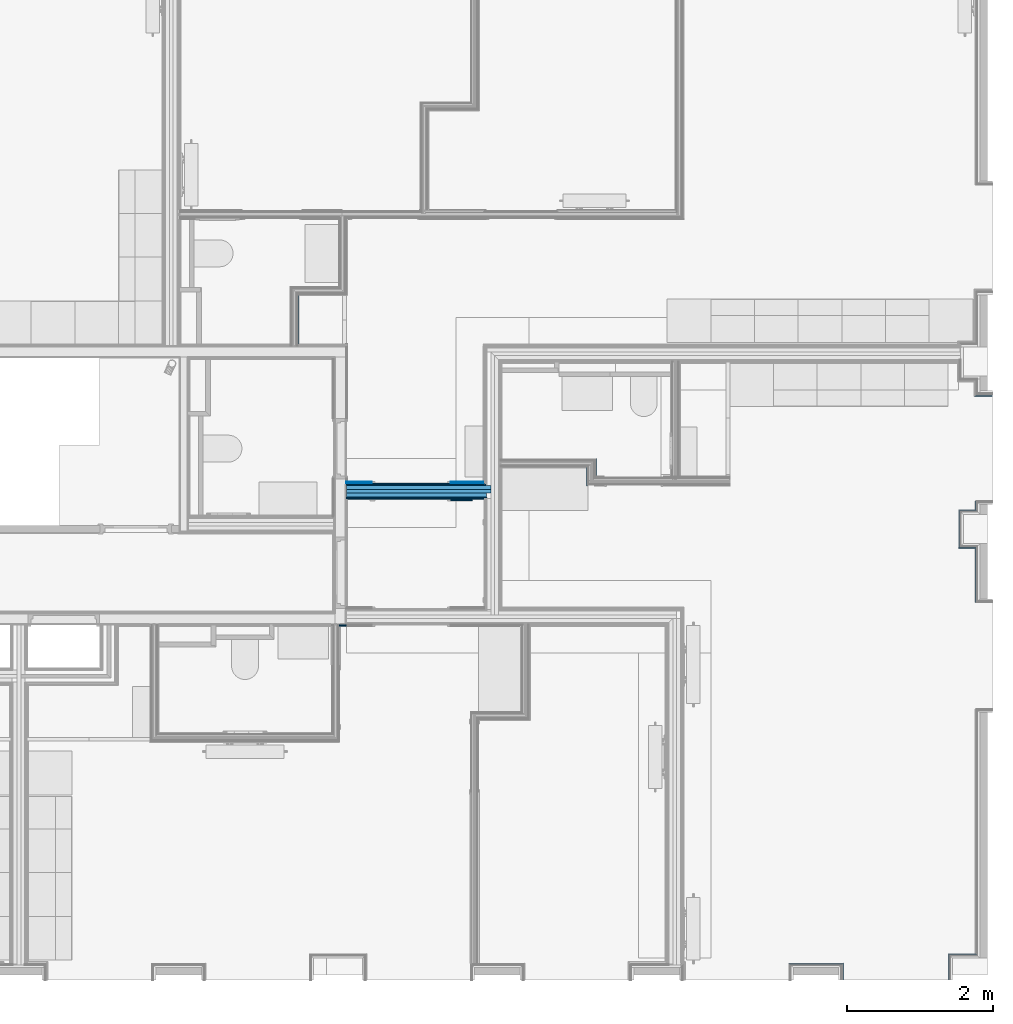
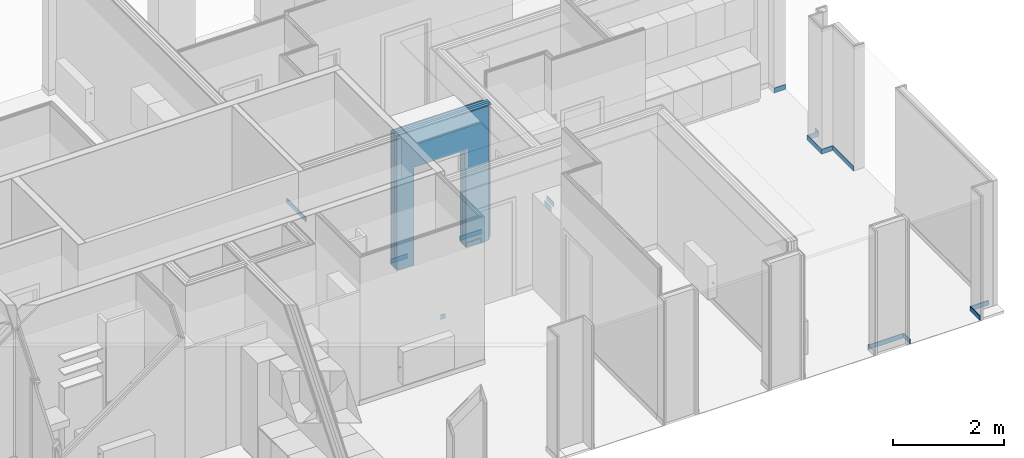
# One storey, part 37 of 64: 23 building element parts, 1 opening, 14 elements without a shape of their own.
"""IFC2X3 building model written with IfcOpenShell, lengths in metres."""

import ifcopenshell
import ifcopenshell.guid

model = None  # the IFC model being written
_history = None  # IfcOwnerHistory: only IFC2X3 demands one
_inside = {}  # id of a spatial element -> (the spatial element, [elements in it])
_under = {}  # id of a project, library or spatial element -> (it, [spatial elements below it])
_declared = {}  # id of a project -> (the project, [libraries it declares])
_typed = {}  # id of a type object -> (the type object, [elements of that type])
_made_of = {}  # id of a material, layer set ... -> (it, [elements and type objects made of it])


def new_model(schema):
    """Start an empty IFC model of exactly this schema.

    Asked for "IFC4X3", IfcOpenShell would pick the latest addendum, in which some entities
    have other attributes; the version numbers below select the first issue.
    IFC2X3 requires an IfcOwnerHistory on every rooted entity: one is made here for all.
    """
    global model, _history
    if schema == "IFC4X3":
        model = ifcopenshell.file(schema_version=(4, 3, 0, 0))
    else:
        model = ifcopenshell.file(schema=schema)
    _inside.clear()
    _under.clear()
    _declared.clear()
    _typed.clear()
    _made_of.clear()
    _history = None
    if model.schema == "IFC2X3":
        org = make("IfcOrganization", Name="unknown")
        user = make(
            "IfcPersonAndOrganization",
            ThePerson=make("IfcPerson", FamilyName="unknown"),
            TheOrganization=org,
        )
        app = make(
            "IfcApplication",
            ApplicationDeveloper=org,
            Version="unknown",
            ApplicationFullName="unknown",
            ApplicationIdentifier="unknown",
        )
        _history = make(
            "IfcOwnerHistory",
            OwningUser=user,
            OwningApplication=app,
            ChangeAction="ADDED",
            CreationDate=0,
        )
    return model


def make(cls, **values):
    """One entity of the class cls with the attributes given. An attribute that is None is left unset."""
    return model.create_entity(
        cls, **{name: value for name, value in values.items() if value is not None}
    )


def entity(cls, *values):
    """Any entity or typed value of the class cls, its attributes in the order of the schema. None: left unset."""
    e = model.create_entity(cls)
    for i, value in enumerate(values):
        if value is not None:
            e[i] = value
    return e


def rooted(cls, **values):
    """An entity with a GlobalId (a new one), such as an element, a storey or a relation."""
    return make(cls, GlobalId=ifcopenshell.guid.new(), OwnerHistory=_history, **values)


def si_unit(unit_type, name, prefix=None):
    """IfcSIUnit, for example si_unit("LENGTHUNIT", "METRE", prefix="MILLI")."""
    return make("IfcSIUnit", UnitType=unit_type, Prefix=prefix, Name=name)


def converted_unit(unit_type, name, factor, base, dimensions=None, offset=None):
    """IfcConversionBasedUnit, such as the inch: factor (a typed value) times the base unit."""
    return make(
        "IfcConversionBasedUnit"
        if offset is None
        else "IfcConversionBasedUnitWithOffset",
        ConversionOffset=offset,
        Dimensions=None
        if dimensions is None
        else entity("IfcDimensionalExponents", *dimensions),
        UnitType=unit_type,
        Name=name,
        ConversionFactor=make(
            "IfcMeasureWithUnit", ValueComponent=factor, UnitComponent=base
        ),
    )


def derived_unit(unit_type, elements):
    """IfcDerivedUnit: a product of units, each with its exponent."""
    return make(
        "IfcDerivedUnit",
        Elements=[
            make("IfcDerivedUnitElement", Unit=unit, Exponent=power)
            for unit, power in elements
        ],
        UnitType=unit_type,
    )


def money_unit(currency):
    """IfcMonetaryUnit."""
    return make("IfcMonetaryUnit", Currency=currency)


def assignment(units):
    """IfcUnitAssignment: the units of a project."""
    return None if units is None else make("IfcUnitAssignment", Units=units)


def point(xyz):
    """IfcCartesianPoint."""
    return None if xyz is None else make("IfcCartesianPoint", Coordinates=xyz)


def direction(xyz):
    """IfcDirection."""
    return None if xyz is None else make("IfcDirection", DirectionRatios=xyz)


def frame(location, z_axis=None, x_axis=None):
    """IfcAxis2Placement3D, a coordinate frame: its origin and axes. An axis left out is left unset."""
    return make(
        "IfcAxis2Placement3D",
        Location=point(location),
        Axis=direction(z_axis),
        RefDirection=direction(x_axis),
    )


def frame_2d(location, x_axis=None):
    """IfcAxis2Placement2D, a coordinate frame in the plane: its origin and x axis."""
    return make(
        "IfcAxis2Placement2D", Location=point(location), RefDirection=direction(x_axis)
    )


def origin_with_axes():
    """The frame at (0, 0, 0) with the z axis (0, 0, 1) and the x axis (1, 0, 0) written out."""
    return frame((0.0, 0.0, 0.0), z_axis=(0.0, 0.0, 1.0), x_axis=(1.0, 0.0, 0.0))


def place(relative_to, where):
    """IfcLocalPlacement: puts the frame where relative to a parent placement (None: the world)."""
    return make(
        "IfcLocalPlacement", PlacementRelTo=relative_to, RelativePlacement=where
    )


def context(
    kind, dimensions, precision=None, world=None, true_north=None, identifier=None
):
    """IfcGeometricRepresentationContext, for example the 3D "Model" context."""
    return make(
        "IfcGeometricRepresentationContext",
        ContextIdentifier=identifier,
        ContextType=kind,
        CoordinateSpaceDimension=dimensions,
        Precision=precision,
        WorldCoordinateSystem=world,
        TrueNorth=true_north,
    )


def subcontext(parent, identifier, kind, view, scale=None):
    """IfcGeometricRepresentationSubContext, for example "Body" below "Model"."""
    return make(
        "IfcGeometricRepresentationSubContext",
        ContextIdentifier=identifier,
        ContextType=kind,
        ParentContext=parent,
        TargetScale=scale,
        TargetView=view,
    )


def project(units=None, contexts=None):
    """IfcProject with its units and contexts."""
    return rooted(
        "IfcProject",
        Name="project",
        RepresentationContexts=contexts,
        UnitsInContext=assignment(units),
    )


def spatial(cls, under=None, at=None, **own):
    """A site, building, storey or space (cls), placed at a placement, below another one or the project."""
    s = rooted(cls, ObjectPlacement=at, **own)
    if under is not None:
        _under.setdefault(under.id(), (under, []))[1].append(s)
    return s


def polyline(points):
    """IfcPolyline through the points."""
    return make("IfcPolyline", Points=[point(p) for p in points])


def profile(cls, at=None, kind="AREA", **sizes):
    """A parametric profile (cls). Its sizes go by their IFC names, for example OverallWidth=200.0."""
    return make(cls, ProfileType=kind, Position=at, **sizes)


def rectangle(**sizes):
    """IfcRectangleProfileDef."""
    return profile("IfcRectangleProfileDef", **sizes)


def outline(outer, holes=None, kind="AREA"):
    """IfcArbitraryClosedProfileDef: a profile drawn as a closed curve; with holes, ...WithVoids."""
    if holes is None:
        return make("IfcArbitraryClosedProfileDef", ProfileType=kind, OuterCurve=outer)
    return make(
        "IfcArbitraryProfileDefWithVoids",
        ProfileType=kind,
        OuterCurve=outer,
        InnerCurves=holes,
    )


def extrude(swept, where, along, depth):
    """IfcExtrudedAreaSolid: the profile swept, set in the frame where, extruded along a direction by depth."""
    return make(
        "IfcExtrudedAreaSolid",
        SweptArea=swept,
        Position=where,
        ExtrudedDirection=direction(along),
        Depth=depth,
    )


def shape(context_of_items, identifier, shape_type, items):
    """IfcShapeRepresentation: the items that make up one representation, for example the "Body"."""
    return make(
        "IfcShapeRepresentation",
        ContextOfItems=context_of_items,
        RepresentationIdentifier=identifier,
        RepresentationType=shape_type,
        Items=items,
    )


def material(Name=None, Category=None):
    """IfcMaterial."""
    return make("IfcMaterial", Name=Name, Category=Category)


def made_of(thing, what):
    """Note that an element or type object is made of a material, layer set ...; save() writes the relation."""
    if what is not None:
        _made_of.setdefault(what.id(), (what, []))[1].append(thing)
    return thing


def type_object(cls, material=None, **own):
    """A type object (cls), such as IfcWallType, which elements share."""
    return made_of(rooted(cls, **own), material)


def element(
    cls,
    number,
    at=None,
    inside=None,
    cuts=None,
    type_object=None,
    material=None,
    context=None,
    identifier="Body",
    shape_type=None,
    held_by="IfcProductDefinitionShape",
    body=None,
    shapes=None,
    **own,
):
    """One element of the class cls, such as IfcWall. Its Tag is "e" and its number.

    at: its placement. inside: the storey or other place that contains it. cuts: it is an
    opening in that element (IfcRelVoidsElement). A single representation is given by context,
    identifier, shape_type and body (its items); several are given by shapes. held_by: the class
    of the entity that holds the representations. save() writes the other relations.
    """
    e = rooted(cls, Tag="e%d" % number, ObjectPlacement=at, **own)
    if body is not None:
        shapes = [shape(context, identifier, shape_type, body)]
    if shapes is not None:
        e.Representation = make(held_by, Representations=shapes)
    if inside is not None:
        _inside.setdefault(inside.id(), (inside, []))[1].append(e)
    if cuts is not None:
        rooted(
            "IfcRelVoidsElement", RelatingBuildingElement=cuts, RelatedOpeningElement=e
        )
    if type_object is not None:
        _typed.setdefault(type_object.id(), (type_object, []))[1].append(e)
    return made_of(e, material)


def aggregate(whole, parts):
    """IfcRelAggregates: a whole, such as a stair, and the parts it consists of."""
    return rooted("IfcRelAggregates", RelatingObject=whole, RelatedObjects=parts)


def save(model, path):
    """Write the relations noted so far, then the file.

    IfcRelAggregates (storeys below a building ...), IfcRelContainedInSpatialStructure (elements
    in a storey), IfcRelDefinesByType, IfcRelAssociatesMaterial and IfcRelDeclares: one each for
    every whole, place, type object, material and project.
    """
    for whole, parts in _under.values():
        aggregate(whole, parts)
    for where, things in _inside.values():
        rooted(
            "IfcRelContainedInSpatialStructure",
            RelatedElements=things,
            RelatingStructure=where,
        )
    for kind, things in _typed.values():
        rooted("IfcRelDefinesByType", RelatedObjects=things, RelatingType=kind)
    for what, things in _made_of.values():
        rooted("IfcRelAssociatesMaterial", RelatedObjects=things, RelatingMaterial=what)
    for by, libraries in _declared.values():
        rooted("IfcRelDeclares", RelatingContext=by, RelatedDefinitions=libraries)
    model.write(path)


model = new_model("IFC2X3")

# Units and contexts
model_context = context("Model", 3, precision=1e-05, world=origin_with_axes(), true_north=direction((0.0, 1.0)))
body_context = subcontext(model_context, "Body", "Model", "MODEL_VIEW", scale=1.0)
ifc_project = project(units=[si_unit("LENGTHUNIT", "METRE"), si_unit("AREAUNIT", "SQUARE_METRE"), si_unit("VOLUMEUNIT", "CUBIC_METRE"), si_unit("ABSORBEDDOSEUNIT", "GRAY"), si_unit("AMOUNTOFSUBSTANCEUNIT", "MOLE"), si_unit("DOSEEQUIVALENTUNIT", "SIEVERT"), si_unit("ELECTRICCAPACITANCEUNIT", "FARAD"), si_unit("ELECTRICCHARGEUNIT", "COULOMB"), si_unit("ELECTRICCONDUCTANCEUNIT", "SIEMENS"), si_unit("ELECTRICCURRENTUNIT", "AMPERE"), si_unit("ELECTRICRESISTANCEUNIT", "OHM"), si_unit("ELECTRICVOLTAGEUNIT", "VOLT"), si_unit("ENERGYUNIT", "JOULE"), si_unit("FORCEUNIT", "NEWTON"), si_unit("FREQUENCYUNIT", "HERTZ"), si_unit("ILLUMINANCEUNIT", "LUX"), si_unit("INDUCTANCEUNIT", "HENRY"), si_unit("LUMINOUSFLUXUNIT", "LUMEN"), si_unit("LUMINOUSINTENSITYUNIT", "CANDELA"), si_unit("MAGNETICFLUXDENSITYUNIT", "TESLA"), si_unit("MAGNETICFLUXUNIT", "WEBER"), si_unit("MASSUNIT", "GRAM"), converted_unit("PLANEANGLEUNIT", "degree", entity("IfcReal", 0.0174532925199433), si_unit("PLANEANGLEUNIT", "RADIAN"), dimensions=[0, 0, 0, 0, 0, 0, 0]), si_unit("POWERUNIT", "WATT"), si_unit("PRESSUREUNIT", "PASCAL"), si_unit("RADIOACTIVITYUNIT", "BECQUEREL"), si_unit("SOLIDANGLEUNIT", "STERADIAN"), si_unit("THERMODYNAMICTEMPERATUREUNIT", "KELVIN"), si_unit("TIMEUNIT", "SECOND"), derived_unit("ACCELERATIONUNIT", [(si_unit("LENGTHUNIT", "METRE"), 1), (si_unit("TIMEUNIT", "SECOND"), -2)]), derived_unit("ANGULARVELOCITYUNIT", [(converted_unit("PLANEANGLEUNIT", "degree", entity("IfcReal", 0.0174532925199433), si_unit("PLANEANGLEUNIT", "RADIAN"), dimensions=[0, 0, 0, 0, 0, 0, 0]), 1), (si_unit("TIMEUNIT", "SECOND"), -1)]), derived_unit("CURVATUREUNIT", [(converted_unit("PLANEANGLEUNIT", "degree", entity("IfcReal", 0.0174532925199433), si_unit("PLANEANGLEUNIT", "RADIAN"), dimensions=[0, 0, 0, 0, 0, 0, 0]), 1), (si_unit("LENGTHUNIT", "METRE"), -1)]), derived_unit("DYNAMICVISCOSITYUNIT", [(si_unit("PRESSUREUNIT", "PASCAL"), 1), (si_unit("TIMEUNIT", "SECOND"), 1)]), derived_unit("HEATFLUXDENSITYUNIT", [(si_unit("POWERUNIT", "WATT"), 1), (si_unit("LENGTHUNIT", "METRE"), -2)]), derived_unit("HEATINGVALUEUNIT", [(si_unit("ENERGYUNIT", "JOULE"), 1), (si_unit("MASSUNIT", "GRAM"), -1)]), derived_unit("INTEGERCOUNTRATEUNIT", [(si_unit("TIMEUNIT", "SECOND"), -1)]), derived_unit("IONCONCENTRATIONUNIT", [(si_unit("MASSUNIT", "GRAM"), 1), (si_unit("VOLUMEUNIT", "CUBIC_METRE"), -1)]), derived_unit("ISOTHERMALMOISTURECAPACITYUNIT", [(si_unit("VOLUMEUNIT", "CUBIC_METRE"), 1), (si_unit("MASSUNIT", "GRAM"), -1)]), derived_unit("KINEMATICVISCOSITYUNIT", [(si_unit("AREAUNIT", "SQUARE_METRE"), 1), (si_unit("TIMEUNIT", "SECOND"), -1)]), derived_unit("LINEARFORCEUNIT", [(si_unit("FORCEUNIT", "NEWTON"), 1), (si_unit("LENGTHUNIT", "METRE"), -1)]), derived_unit("LINEARMOMENTUNIT", [(si_unit("FORCEUNIT", "NEWTON"), 1), (si_unit("LENGTHUNIT", "METRE"), -1)]), derived_unit("LINEARSTIFFNESSUNIT", [(si_unit("FORCEUNIT", "NEWTON"), 1), (si_unit("LENGTHUNIT", "METRE"), -1)]), derived_unit("LINEARVELOCITYUNIT", [(si_unit("LENGTHUNIT", "METRE"), 1), (si_unit("TIMEUNIT", "SECOND"), -1)]), derived_unit("LUMINOUSINTENSITYDISTRIBUTIONUNIT", [(si_unit("LUMINOUSINTENSITYUNIT", "CANDELA"), 1), (si_unit("LUMINOUSFLUXUNIT", "LUMEN"), -1)]), derived_unit("MASSDENSITYUNIT", [(si_unit("MASSUNIT", "GRAM"), 1), (si_unit("VOLUMEUNIT", "CUBIC_METRE"), -1)]), derived_unit("MASSFLOWRATEUNIT", [(si_unit("MASSUNIT", "GRAM"), 1), (si_unit("TIMEUNIT", "SECOND"), -1)]), derived_unit("MASSPERLENGTHUNIT", [(si_unit("MASSUNIT", "GRAM"), 1), (si_unit("LENGTHUNIT", "METRE"), -1)]), derived_unit("MODULUSOFELASTICITYUNIT", [(si_unit("FORCEUNIT", "NEWTON"), 1), (si_unit("AREAUNIT", "SQUARE_METRE"), -1)]), derived_unit("MODULUSOFLINEARSUBGRADEREACTIONUNIT", [(si_unit("FORCEUNIT", "NEWTON"), 1), (si_unit("LENGTHUNIT", "METRE"), -2)]), derived_unit("MODULUSOFROTATIONALSUBGRADEREACTIONUNIT", [(si_unit("FORCEUNIT", "NEWTON"), 1), (si_unit("LENGTHUNIT", "METRE"), 1)]), derived_unit("MODULUSOFSUBGRADEREACTIONUNIT", [(si_unit("FORCEUNIT", "NEWTON"), 1), (si_unit("VOLUMEUNIT", "CUBIC_METRE"), -1)]), derived_unit("MOISTUREDIFFUSIVITYUNIT", [(si_unit("VOLUMEUNIT", "CUBIC_METRE"), 1), (si_unit("TIMEUNIT", "SECOND"), -1)]), derived_unit("MOLECULARWEIGHTUNIT", [(si_unit("MASSUNIT", "GRAM"), 1), (si_unit("AMOUNTOFSUBSTANCEUNIT", "MOLE"), -1)]), derived_unit("PLANARFORCEUNIT", [(si_unit("FORCEUNIT", "NEWTON"), 1), (si_unit("LENGTHUNIT", "METRE"), -2)]), derived_unit("ROTATIONALFREQUENCYUNIT", [(si_unit("TIMEUNIT", "SECOND"), -1)]), derived_unit("ROTATIONALMASSUNIT", [(si_unit("MASSUNIT", "GRAM"), 1), (si_unit("LENGTHUNIT", "METRE"), 2)]), derived_unit("ROTATIONALSTIFFNESSUNIT", [(si_unit("FORCEUNIT", "NEWTON"), 1), (si_unit("LENGTHUNIT", "METRE"), 1), (converted_unit("PLANEANGLEUNIT", "degree", entity("IfcReal", 0.0174532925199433), si_unit("PLANEANGLEUNIT", "RADIAN"), dimensions=[0, 0, 0, 0, 0, 0, 0]), -1)]), derived_unit("SECTIONAREAINTEGRALUNIT", [(si_unit("LENGTHUNIT", "METRE"), 5)]), derived_unit("SECTIONMODULUSUNIT", [(si_unit("LENGTHUNIT", "METRE"), 3)]), derived_unit("SHEARMODULUSUNIT", [(si_unit("FORCEUNIT", "NEWTON"), 1), (si_unit("AREAUNIT", "SQUARE_METRE"), -1)]), derived_unit("SOUNDPOWERUNIT", [(si_unit("ENERGYUNIT", "JOULE"), 1), (si_unit("TIMEUNIT", "SECOND"), -1)]), derived_unit("SPECIFICHEATCAPACITYUNIT", [(si_unit("FORCEUNIT", "NEWTON"), 1), (si_unit("MASSUNIT", "GRAM"), -1), (si_unit("THERMODYNAMICTEMPERATUREUNIT", "KELVIN"), -1)]), derived_unit("TEMPERATUREGRADIENTUNIT", [(si_unit("THERMODYNAMICTEMPERATUREUNIT", "KELVIN"), 1), (si_unit("LENGTHUNIT", "METRE"), -1)]), derived_unit("THERMALADMITTANCEUNIT", [(si_unit("POWERUNIT", "WATT"), 1), (si_unit("AREAUNIT", "SQUARE_METRE"), -1), (si_unit("THERMODYNAMICTEMPERATUREUNIT", "KELVIN"), -1)]), derived_unit("THERMALCONDUCTANCEUNIT", [(si_unit("POWERUNIT", "WATT"), 1), (si_unit("LENGTHUNIT", "METRE"), -1), (si_unit("THERMODYNAMICTEMPERATUREUNIT", "KELVIN"), -1)]), derived_unit("THERMALEXPANSIONCOEFFICIENTUNIT", [(si_unit("THERMODYNAMICTEMPERATUREUNIT", "KELVIN"), -1)]), derived_unit("THERMALRESISTANCEUNIT", [(si_unit("AREAUNIT", "SQUARE_METRE"), 1), (si_unit("POWERUNIT", "WATT"), -1)]), derived_unit("THERMALTRANSMITTANCEUNIT", [(si_unit("POWERUNIT", "WATT"), 1), (si_unit("AREAUNIT", "SQUARE_METRE"), -1), (si_unit("THERMODYNAMICTEMPERATUREUNIT", "KELVIN"), -1)]), derived_unit("TORQUEUNIT", [(si_unit("FORCEUNIT", "NEWTON"), 1), (si_unit("LENGTHUNIT", "METRE"), 1)]), derived_unit("VAPORPERMEABILITYUNIT", [(si_unit("MASSUNIT", "GRAM"), 1), (si_unit("TIMEUNIT", "SECOND"), -1)]), derived_unit("VOLUMETRICFLOWRATEUNIT", [(si_unit("VOLUMEUNIT", "CUBIC_METRE"), 1), (si_unit("TIMEUNIT", "SECOND"), -1)]), derived_unit("WARPINGCONSTANTUNIT", [(si_unit("LENGTHUNIT", "METRE"), 6)]), derived_unit("WARPINGMOMENTUNIT", [(si_unit("FORCEUNIT", "NEWTON"), 1), (si_unit("LENGTHUNIT", "METRE"), 2)]), money_unit("GBP")], contexts=[model_context])

# Site, building, storey
site_placement = place(None, origin_with_axes())
site = spatial("IfcSite", under=ifc_project, at=site_placement, Name="Site", CompositionType="ELEMENT")
building_placement = place(site_placement, origin_with_axes())
building = spatial("IfcBuilding", under=site, at=building_placement, Name="Building01", CompositionType="ELEMENT")
storey_placement = place(building_placement, frame((0.0, 0.0, 8.64), z_axis=(0.0, 0.0, 1.0), x_axis=(1.0, 0.0, 0.0)))
storey = spatial("IfcBuildingStorey", under=building, at=storey_placement, Name="2F", CompositionType="ELEMENT", Elevation=8.64)

# Wall, building element part
wall_type_1 = type_object("IfcWallType", Name="SHE_A-Walls_Type06d_ExternalWallInsulation_48mm", PredefinedType="NOTDEFINED")
wall_1_placement = place(storey_placement, frame((24.143, 0.27, 0.0), z_axis=(0.0, 0.0, 1.0), x_axis=(1.0, 0.0, 0.0)))
wall_1 = element("IfcWall", 1, at=wall_1_placement, inside=storey, type_object=wall_type_1, Name="6D", ObjectType="SHE_A-Walls_Type06d_ExternalWallInsulation_48mm")
ifc_material_1 = material(Name="A_BSUK_Walls_Timber")
building_element_part_1_placement = place(wall_1_placement, origin_with_axes())
building_element_part_1 = element("IfcBuildingElementPart", 2, at=building_element_part_1_placement, material=ifc_material_1, Name="3", context=body_context, shape_type="SweptSolid", body=[
    extrude(outline(polyline([(0.687, 0.063), (-0.063, 0.063), (-0.048, 0.048), (0.672, 0.048), (0.687, 0.063)])), frame((0.0, 0.0, 0.015), z_axis=(0.0, 0.0, 1.0), x_axis=(1.0, 0.0, 0.0)), (0.0, 0.0, 1.0), 0.1),
])
aggregate(wall_1, [building_element_part_1])

wall_2_placement = place(storey_placement, frame((24.767, 0.27, 0.0), z_axis=(0.0, 0.0, 1.0), x_axis=(0.0, -1.0, 0.0)))
wall_2 = element("IfcWall", 3, at=wall_2_placement, inside=storey, type_object=wall_type_1, Name="6D", ObjectType="SHE_A-Walls_Type06d_ExternalWallInsulation_48mm")
building_element_part_2_placement = place(wall_2_placement, origin_with_axes())
building_element_part_2 = element("IfcBuildingElementPart", 4, at=building_element_part_2_placement, material=ifc_material_1, Name="3", context=body_context, shape_type="SweptSolid", body=[
    extrude(outline(polyline([(-0.063, 0.063), (-0.048, 0.048), (0.17, 0.048), (0.17, 0.063), (-0.063, 0.063)])), frame((0.0, 0.0, 0.015), z_axis=(0.0, 0.0, 1.0), x_axis=(1.0, 0.0, 0.0)), (0.0, 0.0, 1.0), 0.1),
])
aggregate(wall_2, [building_element_part_2])

wall_3_placement = place(storey_placement, frame((26.333, 0.1, 0.0), z_axis=(0.0, 0.0, 1.0), x_axis=(0.0, 1.0, 0.0)))
wall_3 = element("IfcWall", 5, at=wall_3_placement, inside=storey, type_object=wall_type_1, Name="6D", ObjectType="SHE_A-Walls_Type06d_ExternalWallInsulation_48mm")
building_element_part_3_placement = place(wall_3_placement, origin_with_axes())
building_element_part_3 = element("IfcBuildingElementPart", 6, at=building_element_part_3_placement, material=ifc_material_1, Name="3", context=body_context, shape_type="SweptSolid", body=[
    extrude(outline(polyline([(0.363, 0.063), (0.0, 0.063), (0.0, 0.048), (0.348, 0.048), (0.363, 0.063)])), frame((0.0, 0.0, 0.015), z_axis=(0.0, 0.0, 1.0), x_axis=(1.0, 0.0, 0.0)), (0.0, 0.0, 1.0), 0.1),
])
aggregate(wall_3, [building_element_part_3])

wall_4_placement = place(storey_placement, frame((26.333, 0.4, 0.0), z_axis=(0.0, 0.0, 1.0), x_axis=(1.0, 0.0, 0.0)))
wall_4 = element("IfcWall", 7, at=wall_4_placement, inside=storey, type_object=wall_type_1, Name="6D", ObjectType="SHE_A-Walls_Type06d_ExternalWallInsulation_48mm")
building_element_part_4_placement = place(wall_4_placement, origin_with_axes())
building_element_part_4 = element("IfcBuildingElementPart", 8, at=building_element_part_4_placement, material=ifc_material_1, Name="3", context=body_context, shape_type="SweptSolid", body=[
    extrude(outline(polyline([(0.314, 0.063), (-0.063, 0.063), (-0.048, 0.048), (0.329, 0.048), (0.314, 0.063)])), frame((0.0, 0.0, 0.015), z_axis=(0.0, 0.0, 1.0), x_axis=(1.0, 0.0, 0.0)), (0.0, 0.0, 1.0), 0.1),
])
aggregate(wall_4, [building_element_part_4])

wall_5_placement = place(storey_placement, frame((26.71, 5.34018, 0.0), z_axis=(0.0, 0.0, 1.0), x_axis=(0.0, 1.0, 0.0)))
wall_5 = element("IfcWall", 9, at=wall_5_placement, inside=storey, type_object=wall_type_1, Name="6D", ObjectType="SHE_A-Walls_Type06d_ExternalWallInsulation_48mm")
building_element_part_5_placement = place(wall_5_placement, origin_with_axes())
building_element_part_5 = element("IfcBuildingElementPart", 10, at=building_element_part_5_placement, material=ifc_material_1, Name="3", context=body_context, shape_type="SweptSolid", body=[
    extrude(outline(polyline([(0.69682, 0.063), (-0.048, 0.063), (-0.048, 0.048), (0.71182, 0.048), (0.69682, 0.063)])), frame((0.0, 0.0, 0.015), z_axis=(0.0, 0.0, 1.0), x_axis=(1.0, 0.0, 0.0)), (0.0, 0.0, 1.0), 0.1),
])
aggregate(wall_5, [building_element_part_5])

wall_6_placement = place(storey_placement, frame((26.71, 6.1, 0.0), z_axis=(0.0, 0.0, 1.0), x_axis=(-1.0, 0.0, 0.0)))
wall_6 = element("IfcWall", 11, at=wall_6_placement, inside=storey, type_object=wall_type_1, Name="6D", ObjectType="SHE_A-Walls_Type06d_ExternalWallInsulation_48mm")
building_element_part_6_placement = place(wall_6_placement, origin_with_axes())
building_element_part_6 = element("IfcBuildingElementPart", 12, at=building_element_part_6_placement, material=ifc_material_1, Name="3", context=body_context, shape_type="SweptSolid", body=[
    extrude(outline(polyline([(0.293, 0.063), (0.063, 0.063), (0.048, 0.048), (0.278, 0.048), (0.293, 0.063)])), frame((0.0, 0.0, 0.015), z_axis=(0.0, 0.0, 1.0), x_axis=(1.0, 0.0, 0.0)), (0.0, 0.0, 1.0), 0.1),
])
aggregate(wall_6, [building_element_part_6])

wall_7_placement = place(storey_placement, frame((26.48, 6.1, 0.0), z_axis=(0.0, 0.0, 1.0), x_axis=(0.0, 1.0, 0.0)))
wall_7 = element("IfcWall", 13, at=wall_7_placement, inside=storey, type_object=wall_type_1, Name="6D", ObjectType="SHE_A-Walls_Type06d_ExternalWallInsulation_48mm")
building_element_part_7_placement = place(wall_7_placement, origin_with_axes())
building_element_part_7 = element("IfcBuildingElementPart", 14, at=building_element_part_7_placement, material=ifc_material_1, Name="3", context=body_context, shape_type="SweptSolid", body=[
    extrude(outline(polyline([(0.463, 0.063), (-0.063, 0.063), (-0.048, 0.048), (0.448, 0.048), (0.463, 0.063)])), frame((0.0, 0.0, 0.015), z_axis=(0.0, 0.0, 1.0), x_axis=(1.0, 0.0, 0.0)), (0.0, 0.0, 1.0), 0.1),
])
aggregate(wall_7, [building_element_part_7])

wall_8_placement = place(storey_placement, frame((26.48, 6.5, 0.0), z_axis=(0.0, 0.0, 1.0), x_axis=(1.0, 0.0, 0.0)))
wall_8 = element("IfcWall", 15, at=wall_8_placement, inside=storey, type_object=wall_type_1, Name="6D", ObjectType="SHE_A-Walls_Type06d_ExternalWallInsulation_48mm")
building_element_part_8_placement = place(wall_8_placement, origin_with_axes())
building_element_part_8 = element("IfcBuildingElementPart", 16, at=building_element_part_8_placement, material=ifc_material_1, Name="3", context=body_context, shape_type="SweptSolid", body=[
    extrude(outline(polyline([(0.167, 0.063), (-0.063, 0.063), (-0.048, 0.048), (0.182, 0.048), (0.167, 0.063)])), frame((0.0, 0.0, 0.015), z_axis=(0.0, 0.0, 1.0), x_axis=(1.0, 0.0, 0.0)), (0.0, 0.0, 1.0), 0.1),
])
aggregate(wall_8, [building_element_part_8])

wall_9_placement = place(storey_placement, frame((26.71, 6.5, 0.0), z_axis=(0.0, 0.0, 1.0), x_axis=(0.0, 1.0, 0.0)))
wall_9 = element("IfcWall", 17, at=wall_9_placement, inside=storey, type_object=wall_type_1, Name="6D", ObjectType="SHE_A-Walls_Type06d_ExternalWallInsulation_48mm")
building_element_part_9_placement = place(wall_9_placement, origin_with_axes())
building_element_part_9 = element("IfcBuildingElementPart", 18, at=building_element_part_9_placement, material=ifc_material_1, Name="3", context=body_context, shape_type="SweptSolid", body=[
    extrude(outline(polyline([(0.063, 0.063), (0.048, 0.048), (0.182326, 0.048), (0.182326, 0.063), (0.063, 0.063)])), frame((0.0, 0.0, 0.015), z_axis=(0.0, 0.0, 1.0), x_axis=(1.0, 0.0, 0.0)), (0.0, 0.0, 1.0), 0.1),
])
aggregate(wall_9, [building_element_part_9])

wall_type_2 = type_object("IfcWallType", Name="SHE_A-Walls_Type05a_Partition_95mm_tall", PredefinedType="NOTDEFINED")
wall_10_placement = place(storey_placement, frame((17.273132, 8.82, 0.0), z_axis=(0.0, 0.0, 1.0), x_axis=(0.0, 1.0, 0.0)))
wall_10 = element("IfcWall", 19, at=wall_10_placement, inside=storey, type_object=wall_type_2, Name="5A", ObjectType="SHE_A-Walls_Type05a_Partition_95mm_tall")
building_element_part_10_placement = place(wall_10_placement, origin_with_axes())
building_element_part_10 = element("IfcBuildingElementPart", 20, at=building_element_part_10_placement, material=ifc_material_1, Name="1", context=body_context, shape_type="SweptSolid", body=[
    extrude(outline(polyline([(0.705, -0.06), (0.0, -0.06), (0.0, -0.075), (0.69, -0.075), (0.705, -0.06)])), frame((0.0, 0.0, 0.015), z_axis=(0.0, 0.0, 1.0), x_axis=(1.0, 0.0, 0.0)), (0.0, 0.0, 1.0), 0.1),
])
aggregate(wall_10, [building_element_part_10])

# Wall, opening, building element parts
wall_type_3 = type_object("IfcWallType", Name="SHE_A-Walls_Type01c_Partywall_225mm_twin_tall", PredefinedType="NOTDEFINED")
wall_11_placement = place(storey_placement, frame((18.0, 6.793, 0.0), z_axis=(0.0, 0.0, 1.0), x_axis=(1.0, 0.0, 0.0)))
wall_11 = element("IfcWall", 21, at=wall_11_placement, inside=storey, type_object=wall_type_3, Name="1C", ObjectType="SHE_A-Walls_Type01c_Partywall_225mm_twin_tall")
opening_placement = place(wall_11_placement, frame((0.353, -0.103, -0.03), z_axis=(0.0, 0.0, 1.0), x_axis=(1.0, 0.0, 0.0)))
element("IfcOpeningElement", 22, at=opening_placement, cuts=wall_11, Name="Opening", ObjectType="Opening", context=body_context, shape_type="SweptSolid", body=[
    extrude(rectangle(XDim=2.142, YDim=1.081, at=frame_2d((-0.5405, 1.071), x_axis=(0.0, -1.0))), frame((0.0, 0.0, 0.0), z_axis=(0.0, 1.0, 0.0), x_axis=(-1.0, 0.0, 0.0)), (0.0, 0.0, 1.0), 0.255),
    extrude(rectangle(XDim=1.084, YDim=2.172, at=frame_2d((-0.539, 1.086), x_axis=(1.0, 0.0))), frame((0.0, 0.015, 0.0), z_axis=(0.0, 1.0, 0.0), x_axis=(-1.0, 0.0, 0.0)), (0.0, 0.0, 1.0), 0.015),
    extrude(rectangle(XDim=2.142, YDim=1.084, at=frame_2d((-0.542, 1.071), x_axis=(0.0, -1.0))), frame((0.0, 0.0, 0.0), z_axis=(0.0, 1.0, 0.0), x_axis=(-1.0, 0.0, 0.0)), (0.0, 0.0, 1.0), 0.015),
    extrude(outline(polyline([(0.0, 0.03), (0.003, 0.03), (0.003, 2.172), (-1.081, 2.172), (-1.081, 2.142), (-1.084, 2.142), (-1.084, 0.0), (0.0, 0.0), (0.0, 0.03)])), frame((0.0, 0.03, 0.0), z_axis=(0.0, 1.0, 0.0), x_axis=(-1.0, 0.0, 0.0)), (0.0, 0.0, 1.0), 0.015),
    extrude(outline(polyline([(0.0, 0.03), (0.003, 0.03), (0.003, 2.172), (-1.081, 2.172), (-1.081, 2.142), (-1.084, 2.142), (-1.084, 0.0), (0.0, 0.0), (0.0, 0.03)])), frame((0.0, 0.045, 0.0), z_axis=(0.0, 1.0, 0.0), x_axis=(-1.0, 0.0, 0.0)), (0.0, 0.0, 1.0), 0.058),
    extrude(outline(polyline([(0.0, 0.03), (0.003, 0.03), (0.003, 2.172), (-1.081, 2.172), (-1.081, 2.142), (-1.084, 2.142), (-1.084, 0.0), (0.0, 0.0), (0.0, 0.03)])), frame((0.0, 0.103, 0.0), z_axis=(0.0, 1.0, 0.0), x_axis=(-1.0, 0.0, 0.0)), (0.0, 0.0, 1.0), 0.05),
    extrude(outline(polyline([(0.0, 0.03), (0.003, 0.03), (0.003, 2.172), (-1.081, 2.172), (-1.081, 2.142), (-1.084, 2.142), (-1.084, 0.0), (0.0, 0.0), (0.0, 0.03)])), frame((0.0, 0.153, 0.0), z_axis=(0.0, 1.0, 0.0), x_axis=(-1.0, 0.0, 0.0)), (0.0, 0.0, 1.0), 0.057),
    extrude(outline(polyline([(0.0, 0.03), (0.003, 0.03), (0.003, 2.172), (-1.081, 2.172), (-1.081, 2.142), (-1.084, 2.142), (-1.084, 0.0), (0.0, 0.0), (0.0, 0.03)])), frame((0.0, 0.21, 0.0), z_axis=(0.0, 1.0, 0.0), x_axis=(-1.0, 0.0, 0.0)), (0.0, 0.0, 1.0), 0.015),
    extrude(rectangle(XDim=1.084, YDim=2.172, at=frame_2d((-0.539, 1.086), x_axis=(1.0, 0.0))), frame((0.0, 0.225, 0.0), z_axis=(0.0, 1.0, 0.0), x_axis=(-1.0, 0.0, 0.0)), (0.0, 0.0, 1.0), 0.015),
    extrude(outline(polyline([(0.0, 0.03), (0.003, 0.03), (0.003, 2.172), (-1.081, 2.172), (-1.081, 2.142), (-1.084, 2.142), (-1.084, 0.0), (0.0, 0.0), (0.0, 0.03)])), frame((0.0, 0.24, 0.0), z_axis=(0.0, 1.0, 0.0), x_axis=(-1.0, 0.0, 0.0)), (0.0, 0.0, 1.0), 0.015),
])
placement_1 = place(wall_11_placement, origin_with_axes())
building_element_part_11 = element("IfcBuildingElementPart", 23, at=placement_1, material=ifc_material_1, Name="1", context=body_context, shape_type="SweptSolid", body=[
    extrude(rectangle(XDim=0.401969, YDim=0.015, at=frame_2d((1.529984, -0.0955), x_axis=(-1.0, 0.0))), frame((0.0, 0.0, 0.015), z_axis=(0.0, 0.0, 1.0), x_axis=(1.0, 0.0, 0.0)), (0.0, 0.0, 1.0), 0.1),
])
ifc_material_2 = material(Name="A_BSUK_WallInternal_Finishes_Plasterboard")
building_element_part_12 = element("IfcBuildingElementPart", 24, at=placement_1, material=ifc_material_2, Name="2", context=body_context, shape_type="SweptSolid", body=[
    extrude(rectangle(XDim=1.897661, YDim=0.015, at=frame_2d((0.948831, -0.0805), x_axis=(-1.0, 0.0))), origin_with_axes(), (0.0, 0.0, 1.0), 2.95),
])
building_element_part_13 = element("IfcBuildingElementPart", 25, at=placement_1, material=ifc_material_2, Name="3", context=body_context, shape_type="SweptSolid", body=[
    extrude(rectangle(XDim=1.927661, YDim=0.015, at=frame_2d((0.963831, -0.0655), x_axis=(-1.0, 0.0))), origin_with_axes(), (0.0, 0.0, 1.0), 2.95),
])
ifc_material_3 = material(Name="Air Cavity")
building_element_part_14 = element("IfcBuildingElementPart", 26, at=placement_1, material=ifc_material_3, Name="4", context=body_context, shape_type="SweptSolid", body=[
    extrude(rectangle(XDim=1.927661, YDim=0.058, at=frame_2d((0.963831, -0.029), x_axis=(-1.0, 0.0))), origin_with_axes(), (0.0, 0.0, 1.0), 2.95),
])
ifc_material_4 = material(Name="A_BSUK_Insulation")
building_element_part_15 = element("IfcBuildingElementPart", 27, at=placement_1, material=ifc_material_4, Name="5", context=body_context, shape_type="SweptSolid", body=[
    extrude(rectangle(XDim=1.985661, YDim=0.05, at=frame_2d((0.992831, 0.025), x_axis=(-1.0, 0.0))), origin_with_axes(), (0.0, 0.0, 1.0), 2.95),
])
building_element_part_16 = element("IfcBuildingElementPart", 28, at=placement_1, material=ifc_material_3, Name="6", context=body_context, shape_type="SweptSolid", body=[
    extrude(rectangle(XDim=1.985661, YDim=0.057, at=frame_2d((0.992831, 0.0785), x_axis=(-1.0, 0.0))), origin_with_axes(), (0.0, 0.0, 1.0), 2.95),
])
building_element_part_17 = element("IfcBuildingElementPart", 29, at=placement_1, material=ifc_material_2, Name="7", context=body_context, shape_type="SweptSolid", body=[
    extrude(rectangle(XDim=1.912661, YDim=0.015, at=frame_2d((0.956331, 0.1145), x_axis=(-1.0, 0.0))), origin_with_axes(), (0.0, 0.0, 1.0), 2.95),
])
building_element_part_18 = element("IfcBuildingElementPart", 30, at=placement_1, material=ifc_material_2, Name="8", context=body_context, shape_type="SweptSolid", body=[
    extrude(rectangle(XDim=1.897661, YDim=0.015, at=frame_2d((0.948831, 0.1295), x_axis=(-1.0, 0.0))), origin_with_axes(), (0.0, 0.0, 1.0), 2.95),
])
building_element_part_19 = element("IfcBuildingElementPart", 31, at=placement_1, material=ifc_material_1, Name="9", context=body_context, shape_type="SweptSolid", body=[
    extrude(rectangle(XDim=1.882661, YDim=0.015, at=frame_2d((0.941331, 0.1445), x_axis=(-1.0, 0.0))), frame((0.0, 0.0, 0.015), z_axis=(0.0, 0.0, 1.0), x_axis=(1.0, 0.0, 0.0)), (0.0, 0.0, 1.0), 0.1),
])
aggregate(wall_11, [building_element_part_11, building_element_part_12, building_element_part_13, building_element_part_14, building_element_part_15, building_element_part_16, building_element_part_17, building_element_part_18, building_element_part_19])

# Wall, building element parts
wall_12_placement = place(storey_placement, frame((21.382661, 6.965, 0.0), z_axis=(0.0, 0.0, 1.0), x_axis=(0.0, 1.0, 0.0)))
wall_12 = element("IfcWall", 32, at=wall_12_placement, inside=storey, type_object=wall_type_2, Name="5A", ObjectType="SHE_A-Walls_Type05a_Partition_95mm_tall")
placement_2 = place(wall_12_placement, origin_with_axes())
building_element_part_20 = element("IfcBuildingElementPart", 33, at=placement_2, material=ifc_material_1, Name="1", context=body_context, shape_type="SweptSolid", body=[
    extrude(outline(polyline([(0.285, -0.035), (0.035, -0.035), (0.05, -0.05), (0.3, -0.05), (0.285, -0.035)])), frame((0.0, 0.0, 0.015), z_axis=(0.0, 0.0, 1.0), x_axis=(1.0, 0.0, 0.0)), (0.0, 0.0, 1.0), 0.1),
])
building_element_part_21 = element("IfcBuildingElementPart", 34, at=placement_2, material=ifc_material_1, Name="7", context=body_context, shape_type="SweptSolid", body=[
    extrude(outline(polyline([(0.175, 0.075), (-0.075, 0.075), (-0.06, 0.06), (0.19, 0.06), (0.175, 0.075)])), frame((0.0, 0.0, 0.015), z_axis=(0.0, 0.0, 1.0), x_axis=(1.0, 0.0, 0.0)), (0.0, 0.0, 1.0), 0.1),
])
aggregate(wall_12, [building_element_part_20, building_element_part_21])

# Wall, building element part
wall_type_4 = type_object("IfcWallType", Name="SHE_A-Walls_Type03a_BlockworkWall_170mm", PredefinedType="NOTDEFINED")
wall_13_placement = place(storey_placement, frame((9.215, 4.995, 0.0), z_axis=(0.0, 0.0, 1.0), x_axis=(1.0, 0.0, 0.0)))
wall_13 = element("IfcWall", 35, at=wall_13_placement, inside=storey, type_object=wall_type_4, Name="4B", ObjectType="SHE_A-Walls_Type03a_BlockworkWall_170mm")
building_element_part_22_placement = place(wall_13_placement, origin_with_axes())
building_element_part_22 = element("IfcBuildingElementPart", 36, at=building_element_part_22_placement, material=ifc_material_1, Name="3", context=body_context, shape_type="SweptSolid", body=[
    extrude(rectangle(XDim=0.015, YDim=0.0975, at=frame_2d((8.73625, -0.0225), x_axis=(0.0, -1.0))), frame((0.0, 0.0, 0.015), z_axis=(0.0, 0.0, 1.0), x_axis=(1.0, 0.0, 0.0)), (0.0, 0.0, 1.0), 0.1),
])
aggregate(wall_13, [building_element_part_22])

wall_type_5 = type_object("IfcWallType", Name="SHE_A-Walls_Type06f_ExternalWallInsulation_48+15mm", PredefinedType="NOTDEFINED")
wall_14_placement = place(storey_placement, frame((26.71, 8.200326, 0.0), z_axis=(0.0, 0.0, 1.0), x_axis=(1.0, 0.0, 0.0)))
wall_14 = element("IfcWall", 37, at=wall_14_placement, inside=storey, type_object=wall_type_5, Name="6F", ObjectType="SHE_A-Walls_Type06f_ExternalWallInsulation_48+15mm")
building_element_part_23_placement = place(wall_14_placement, origin_with_axes())
building_element_part_23 = element("IfcBuildingElementPart", 38, at=building_element_part_23_placement, material=ifc_material_1, Name="1", context=body_context, shape_type="SweptSolid", body=[
    extrude(outline(polyline([(0.17, -0.063), (-0.063, -0.063), (-0.078, -0.078), (0.17, -0.078), (0.17, -0.063)])), frame((0.0, 0.0, 0.015), z_axis=(0.0, 0.0, 1.0), x_axis=(1.0, 0.0, 0.0)), (0.0, 0.0, 1.0), 0.1),
])
aggregate(wall_14, [building_element_part_23])

save(model, "model.ifc")
